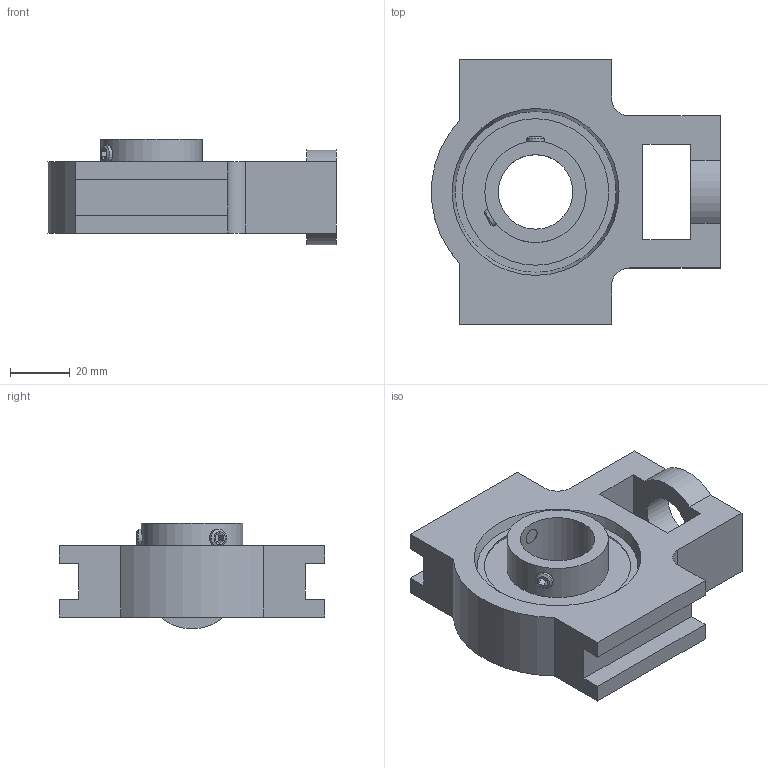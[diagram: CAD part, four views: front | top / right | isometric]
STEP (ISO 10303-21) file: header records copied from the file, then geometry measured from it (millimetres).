
FILE_DESCRIPTION((''),'2;1');
FILE_NAME('\\Ts-tgl068\j-cad-d-base\00.3DCADデータ作成フォルダ\03.テークアップ形\BT200\BT205.stp','2014-06-27T08:08:48',('btec_1106_2'),(''),'Autodesk Inventor 2012','Autodesk Inventor 2012','');
FILE_SCHEMA(('AUTOMOTIVE_DESIGN { 1 0 10303 214 1 1 1 1 }'));
Length unit declared in the file: millimetre
Products named in the file (3): BT200; T200G00 [番手=205 ul]; シリーズB [番手=5 ul]
Assembly tree (2 placements, depth 2):
  BT200
    T200G00 [番手=205 ul]
    シリーズB [番手=5 ul]
Bounding box: 96.88 x 89 x 35.45 mm (x, y, z)
Volume: 116773.3 mm3; surface area: 33299.9 mm2
Topology: 2 solids, 2 shells, 66 faces, 168 edges, 111 vertices
Faces by surface type: plane 46, cylinder 14, cone 4, sphere 2
Full cylindrical faces by diameter (mm): 6 x2, 19 x1, 25 x1, 34 x1
Entity records: 2088 total; most frequent: CARTESIAN_POINT 463, DIRECTION 316, ORIENTED_EDGE 300, EDGE_CURVE 150, VECTOR 110, LINE 110, VERTEX_POINT 106, AXIS2_PLACEMENT_3D 103
